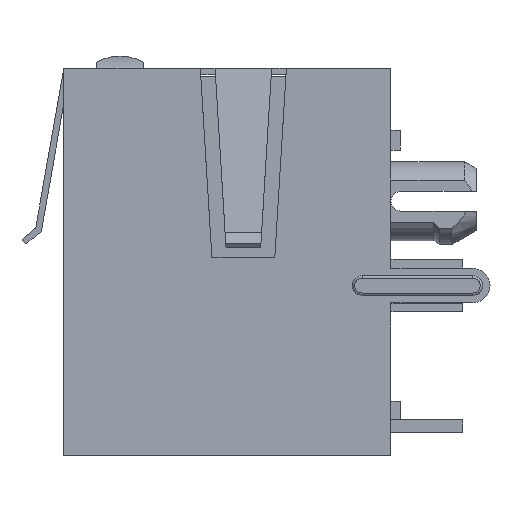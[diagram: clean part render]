
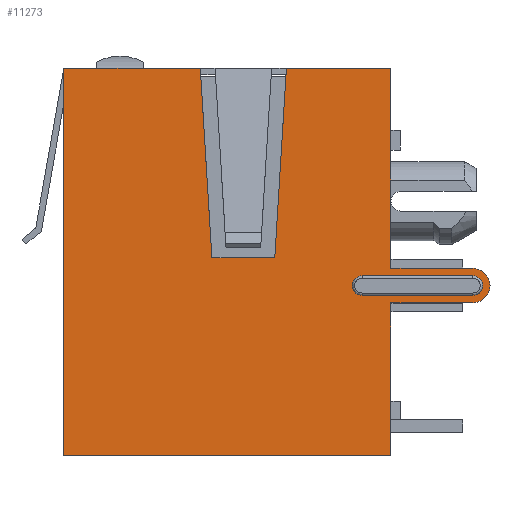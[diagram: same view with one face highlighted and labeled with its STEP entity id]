
A CAD part, left-side view. The second image highlights one B-rep face of the part: STEP entity #11273.
In plain terms, the highlighted planar face has unit normal (-1, 0, 0).
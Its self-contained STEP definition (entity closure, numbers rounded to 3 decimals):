
#131 = CARTESIAN_POINT ( 'NONE',  ( -16.13, -12.83, 0.32 ) ) ;
#551 = FACE_BOUND ( 'NONE', #10599, .T. ) ;
#1263 = VERTEX_POINT ( 'NONE', #29516 ) ;
#2187 = CARTESIAN_POINT ( 'NONE',  ( -16.13, -16.16, -7.81 ) ) ;
#2381 = VERTEX_POINT ( 'NONE', #2420 ) ;
#2420 = CARTESIAN_POINT ( 'NONE',  ( -16.13, -12.83, -9.21 ) ) ;
#3049 = ORIENTED_EDGE ( 'NONE', *, *, #18213, .T. ) ;
#3118 = CARTESIAN_POINT ( 'NONE',  ( -16.13, -16.16, -9.21 ) ) ;
#3134 = VERTEX_POINT ( 'NONE', #8271 ) ;
#3252 = EDGE_CURVE ( 'NONE', #3134, #30317, #28290, .T. ) ;
#3471 = CARTESIAN_POINT ( 'NONE',  ( -16.13, 0.47, -15.43 ) ) ;
#3492 = EDGE_CURVE ( 'NONE', #18609, #4125, #17338, .T. ) ;
#4125 = VERTEX_POINT ( 'NONE', #29996 ) ;
#4838 = LINE ( 'NONE', #7498, #5936 ) ;
#4950 = VERTEX_POINT ( 'NONE', #19279 ) ;
#4951 = CARTESIAN_POINT ( 'NONE',  ( -16.13, -8.196, -8.91 ) ) ;
#4959 = DIRECTION ( 'NONE',  ( 0., -1., 0. ) ) ;
#5049 = VERTEX_POINT ( 'NONE', #2187 ) ;
#5249 = CARTESIAN_POINT ( 'NONE',  ( -16.13, 0.817, -15.745 ) ) ;
#5255 = AXIS2_PLACEMENT_3D ( 'NONE', #14497, #11957, #32455 ) ;
#5339 = ORIENTED_EDGE ( 'NONE', *, *, #19730, .T. ) ;
#5936 = VECTOR ( 'NONE', #28148, 1000. ) ;
#6449 = ORIENTED_EDGE ( 'NONE', *, *, #10692, .F. ) ;
#6575 = EDGE_CURVE ( 'NONE', #18588, #5049, #24940, .T. ) ;
#6839 = CARTESIAN_POINT ( 'NONE',  ( -16.13, -16.16, -8.51 ) ) ;
#6853 = EDGE_CURVE ( 'NONE', #4950, #32451, #13299, .T. ) ;
#7486 = VECTOR ( 'NONE', #33172, 1000. ) ;
#7498 = CARTESIAN_POINT ( 'NONE',  ( -16.13, -8.196, -15.43 ) ) ;
#7818 = VECTOR ( 'NONE', #25988, 1000. ) ;
#7944 = VERTEX_POINT ( 'NONE', #30791 ) ;
#8032 = CARTESIAN_POINT ( 'NONE',  ( -16.13, -12.83, -7.555 ) ) ;
#8271 = CARTESIAN_POINT ( 'NONE',  ( -16.13, 0.47, 0.32 ) ) ;
#8618 = CARTESIAN_POINT ( 'NONE',  ( -16.13, -16.16, -8.91 ) ) ;
#8946 = CARTESIAN_POINT ( 'NONE',  ( -16.13, -5.315, -3.53 ) ) ;
#9157 = VECTOR ( 'NONE', #13700, 1000. ) ;
#9366 = ORIENTED_EDGE ( 'NONE', *, *, #6853, .F. ) ;
#9614 = VECTOR ( 'NONE', #18892, 1000. ) ;
#9813 = LINE ( 'NONE', #24937, #25517 ) ;
#10233 = EDGE_CURVE ( 'NONE', #7944, #21988, #30589, .T. ) ;
#10300 = VECTOR ( 'NONE', #15136, 1000. ) ;
#10407 = ORIENTED_EDGE ( 'NONE', *, *, #3492, .T. ) ;
#10546 = CIRCLE ( 'NONE', #5255, 0.4 ) ;
#10599 = EDGE_LOOP ( 'NONE', ( #3049, #17286, #24536, #10407 ) ) ;
#10692 = EDGE_CURVE ( 'NONE', #3134, #27962, #30217, .T. ) ;
#11273 = ADVANCED_FACE ( 'NONE', ( #17981, #551 ), #15614, .T. ) ;
#11440 = ORIENTED_EDGE ( 'NONE', *, *, #3252, .T. ) ;
#11559 = CARTESIAN_POINT ( 'NONE',  ( -16.13, -8.109, -7.38 ) ) ;
#11666 = LINE ( 'NONE', #26626, #9157 ) ;
#11957 = DIRECTION ( 'NONE',  ( 1., 0., 0. ) ) ;
#12678 = LINE ( 'NONE', #15691, #7486 ) ;
#13299 = LINE ( 'NONE', #26228, #30302 ) ;
#13700 = DIRECTION ( 'NONE',  ( 0., 0., 1. ) ) ;
#13724 = VECTOR ( 'NONE', #4959, 1000. ) ;
#13957 = EDGE_CURVE ( 'NONE', #30840, #29512, #19744, .T. ) ;
#14155 = CARTESIAN_POINT ( 'NONE',  ( -16.13, -16.16, -8.11 ) ) ;
#14250 = ORIENTED_EDGE ( 'NONE', *, *, #6575, .T. ) ;
#14497 = CARTESIAN_POINT ( 'NONE',  ( -16.13, -16.16, -8.51 ) ) ;
#15067 = ORIENTED_EDGE ( 'NONE', *, *, #13957, .T. ) ;
#15136 = DIRECTION ( 'NONE',  ( 0., 1., 0. ) ) ;
#15274 = ORIENTED_EDGE ( 'NONE', *, *, #18417, .T. ) ;
#15492 = CARTESIAN_POINT ( 'NONE',  ( -16.13, 0.47, -7.555 ) ) ;
#15614 = PLANE ( 'NONE',  #19617 ) ;
#15691 = CARTESIAN_POINT ( 'NONE',  ( -16.13, -8.196, -9.21 ) ) ;
#15765 = DIRECTION ( 'NONE',  ( 0., 0., 1. ) ) ;
#15903 = CARTESIAN_POINT ( 'NONE',  ( -16.13, -6.18, 0.32 ) ) ;
#16023 = EDGE_CURVE ( 'NONE', #1263, #2381, #11666, .T. ) ;
#17225 = DIRECTION ( 'NONE',  ( -1., 0., 0. ) ) ;
#17286 = ORIENTED_EDGE ( 'NONE', *, *, #10233, .T. ) ;
#17338 = LINE ( 'NONE', #4951, #10300 ) ;
#17602 = EDGE_CURVE ( 'NONE', #2381, #18588, #12678, .T. ) ;
#17643 = EDGE_CURVE ( 'NONE', #27962, #29512, #19223, .T. ) ;
#17981 = FACE_OUTER_BOUND ( 'NONE', #32575, .T. ) ;
#18140 = VECTOR ( 'NONE', #29650, 1000. ) ;
#18213 = EDGE_CURVE ( 'NONE', #4125, #7944, #26229, .T. ) ;
#18417 = EDGE_CURVE ( 'NONE', #30317, #1263, #4838, .T. ) ;
#18588 = VERTEX_POINT ( 'NONE', #3118 ) ;
#18609 = VERTEX_POINT ( 'NONE', #8618 ) ;
#18892 = DIRECTION ( 'NONE',  ( 0., -0.061, -0.998 ) ) ;
#18916 = CARTESIAN_POINT ( 'NONE',  ( -16.13, -8.58, 0.32 ) ) ;
#19151 = ORIENTED_EDGE ( 'NONE', *, *, #17643, .F. ) ;
#19223 = LINE ( 'NONE', #8946, #9614 ) ;
#19279 = CARTESIAN_POINT ( 'NONE',  ( -16.13, -8.58, 0.32 ) ) ;
#19429 = DIRECTION ( 'NONE',  ( 0., 0.061, -0.998 ) ) ;
#19617 = AXIS2_PLACEMENT_3D ( 'NONE', #5249, #31216, #15765 ) ;
#19730 = EDGE_CURVE ( 'NONE', #28375, #32451, #20483, .T. ) ;
#19744 = LINE ( 'NONE', #25256, #18140 ) ;
#19823 = ORIENTED_EDGE ( 'NONE', *, *, #20405, .T. ) ;
#20405 = EDGE_CURVE ( 'NONE', #4950, #30840, #21772, .T. ) ;
#20483 = LINE ( 'NONE', #8032, #30473 ) ;
#20579 = EDGE_CURVE ( 'NONE', #5049, #28375, #9813, .T. ) ;
#20721 = VECTOR ( 'NONE', #19429, 1000. ) ;
#21200 = AXIS2_PLACEMENT_3D ( 'NONE', #6839, #17225, #27127 ) ;
#21389 = DIRECTION ( 'NONE',  ( 0., -1., 0. ) ) ;
#21772 = LINE ( 'NONE', #18916, #20721 ) ;
#21988 = VERTEX_POINT ( 'NONE', #14155 ) ;
#22122 = EDGE_CURVE ( 'NONE', #21988, #18609, #10546, .T. ) ;
#22450 = DIRECTION ( 'NONE',  ( 0., 1., 0. ) ) ;
#22973 = DIRECTION ( 'NONE',  ( 0., 0., 1. ) ) ;
#23180 = DIRECTION ( 'NONE',  ( 0., 0., 1. ) ) ;
#23338 = CARTESIAN_POINT ( 'NONE',  ( -16.13, -11.66, -8.51 ) ) ;
#23865 = ORIENTED_EDGE ( 'NONE', *, *, #17602, .T. ) ;
#24536 = ORIENTED_EDGE ( 'NONE', *, *, #22122, .T. ) ;
#24841 = CARTESIAN_POINT ( 'NONE',  ( -16.13, -5.551, -7.38 ) ) ;
#24937 = CARTESIAN_POINT ( 'NONE',  ( -16.13, -8.196, -7.81 ) ) ;
#24940 = CIRCLE ( 'NONE', #21200, 0.7 ) ;
#25169 = AXIS2_PLACEMENT_3D ( 'NONE', #23338, #28400, #23180 ) ;
#25256 = CARTESIAN_POINT ( 'NONE',  ( -16.13, -8.196, -7.38 ) ) ;
#25316 = VECTOR ( 'NONE', #25747, 1000. ) ;
#25517 = VECTOR ( 'NONE', #22450, 1000. ) ;
#25706 = CARTESIAN_POINT ( 'NONE',  ( -16.13, -8.196, -8.11 ) ) ;
#25747 = DIRECTION ( 'NONE',  ( 0., 0., -1. ) ) ;
#25988 = DIRECTION ( 'NONE',  ( 0., -1., 0. ) ) ;
#26228 = CARTESIAN_POINT ( 'NONE',  ( -16.13, -6.18, 0.32 ) ) ;
#26229 = CIRCLE ( 'NONE', #25169, 0.4 ) ;
#26626 = CARTESIAN_POINT ( 'NONE',  ( -16.13, -12.83, -7.555 ) ) ;
#27127 = DIRECTION ( 'NONE',  ( 0., 0., 1. ) ) ;
#27962 = VERTEX_POINT ( 'NONE', #31270 ) ;
#28148 = DIRECTION ( 'NONE',  ( 0., -1., 0. ) ) ;
#28244 = ORIENTED_EDGE ( 'NONE', *, *, #20579, .T. ) ;
#28290 = LINE ( 'NONE', #15492, #25316 ) ;
#28375 = VERTEX_POINT ( 'NONE', #30205 ) ;
#28400 = DIRECTION ( 'NONE',  ( 1., 0., 0. ) ) ;
#29512 = VERTEX_POINT ( 'NONE', #24841 ) ;
#29516 = CARTESIAN_POINT ( 'NONE',  ( -16.13, -12.83, -15.43 ) ) ;
#29650 = DIRECTION ( 'NONE',  ( 0., 1., 0. ) ) ;
#29996 = CARTESIAN_POINT ( 'NONE',  ( -16.13, -11.66, -8.91 ) ) ;
#30205 = CARTESIAN_POINT ( 'NONE',  ( -16.13, -12.83, -7.81 ) ) ;
#30217 = LINE ( 'NONE', #15903, #7818 ) ;
#30302 = VECTOR ( 'NONE', #21389, 1000. ) ;
#30317 = VERTEX_POINT ( 'NONE', #3471 ) ;
#30473 = VECTOR ( 'NONE', #22973, 1000. ) ;
#30589 = LINE ( 'NONE', #25706, #13724 ) ;
#30791 = CARTESIAN_POINT ( 'NONE',  ( -16.13, -11.66, -8.11 ) ) ;
#30840 = VERTEX_POINT ( 'NONE', #11559 ) ;
#31216 = DIRECTION ( 'NONE',  ( -1., 0., 0. ) ) ;
#31270 = CARTESIAN_POINT ( 'NONE',  ( -16.13, -5.08, 0.32 ) ) ;
#32176 = ORIENTED_EDGE ( 'NONE', *, *, #16023, .T. ) ;
#32451 = VERTEX_POINT ( 'NONE', #131 ) ;
#32455 = DIRECTION ( 'NONE',  ( 0., 0., 1. ) ) ;
#32575 = EDGE_LOOP ( 'NONE', ( #5339, #9366, #19823, #15067, #19151, #6449, #11440, #15274, #32176, #23865, #14250, #28244 ) ) ;
#33172 = DIRECTION ( 'NONE',  ( 0., -1., 0. ) ) ;
